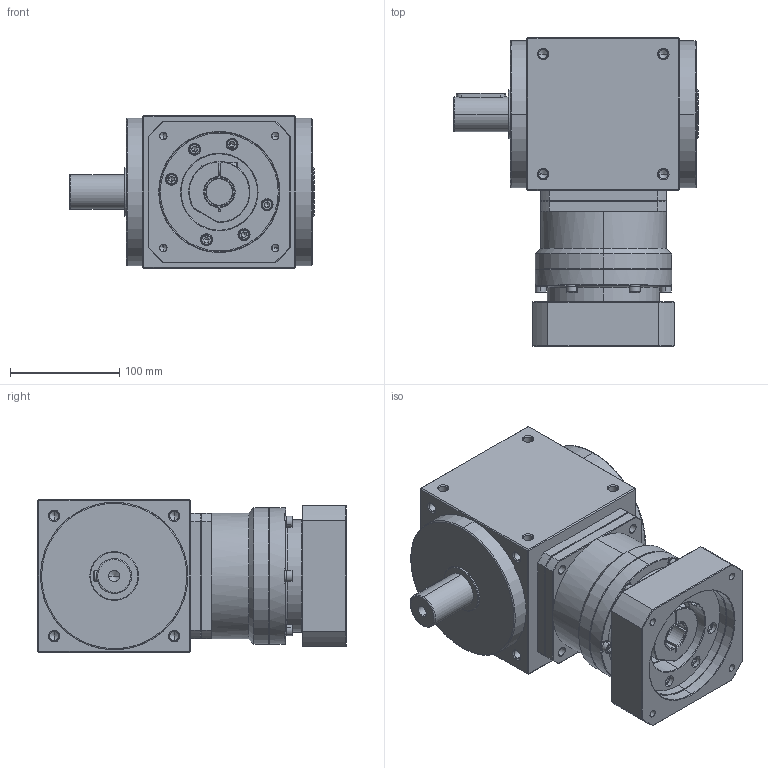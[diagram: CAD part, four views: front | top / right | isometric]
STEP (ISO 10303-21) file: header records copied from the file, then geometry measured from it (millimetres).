
FILE_DESCRIPTION (( 'STEP AP203' ), '1' );
FILE_NAME ('AT140-FR1-L1 24-110-145-M8.STEP', '2024-12-21T08:15:30', ( '' ), ( '' ), 'SwSTEP 2.0', 'SolidWorks 2021', '' );
FILE_SCHEMA (( 'CONFIG_CONTROL_DESIGN' ));
Length unit declared in the file: millimetre
Products named in the file (3): AT140-FR1-L1 24-110-145-M8; VRB-115-L1-S2-P1 24-110-145-M8; AT140-FR1
Assembly tree (2 placements, depth 2):
  AT140-FR1-L1 24-110-145-M8
    AT140-FR1
    VRB-115-L1-S2-P1 24-110-145-M8
Bounding box: 224 x 282.5 x 140 mm (x, y, z)
Volume: 4835886.5 mm3; surface area: 355822.7 mm2
Topology: 33 solids, 33 shells, 1198 faces, 2920 edges, 1763 vertices
Faces by surface type: plane 454, cylinder 438, cone 264, torus 36, bspline 6
Entity records: 36048 total; most frequent: CARTESIAN_POINT 7890, DIRECTION 6138, ORIENTED_EDGE 5636, EDGE_CURVE 2818, AXIS2_PLACEMENT_3D 2408, VERTEX_POINT 1761, EDGE_LOOP 1341, LINE 1322
